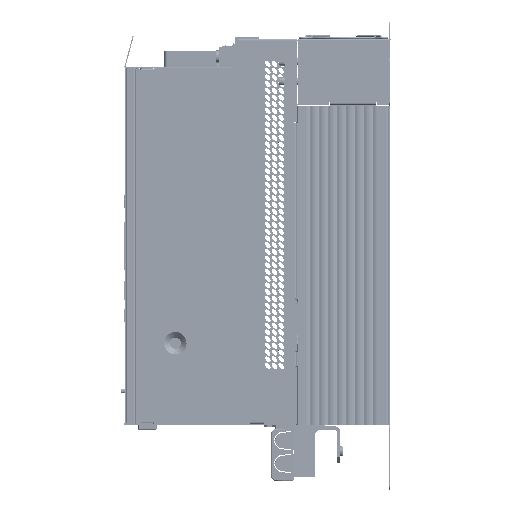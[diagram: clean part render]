
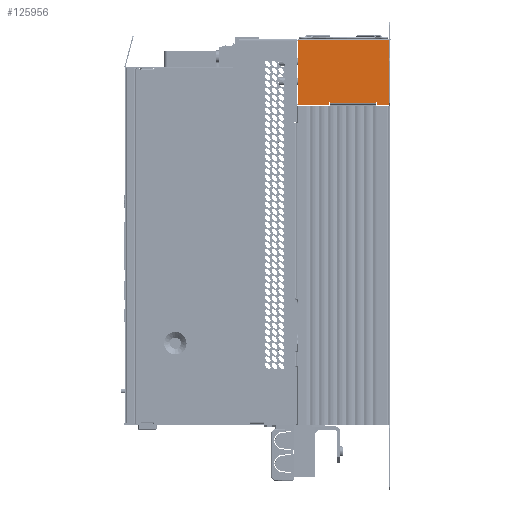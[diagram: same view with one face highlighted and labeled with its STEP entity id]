
A CAD part, left-side view. The second image highlights one B-rep face of the part: STEP entity #125956.
In plain terms, the highlighted planar face has unit normal (-1, 0, 0).
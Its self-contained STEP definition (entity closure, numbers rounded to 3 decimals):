
#12768=PLANE('',#262984);
#21863=LINE('',#324995,#39163);
#21893=LINE('',#325064,#39193);
#21894=LINE('',#325067,#39194);
#21895=LINE('',#325069,#39195);
#21896=LINE('',#325071,#39196);
#21897=LINE('',#325072,#39197);
#21898=LINE('',#325074,#39198);
#21899=LINE('',#325076,#39199);
#21900=LINE('',#325078,#39200);
#21901=LINE('',#325080,#39201);
#21902=LINE('',#325082,#39202);
#21903=LINE('',#325084,#39203);
#21904=LINE('',#325086,#39204);
#39163=VECTOR('',#279265,1.);
#39193=VECTOR('',#279325,1.);
#39194=VECTOR('',#279326,1.);
#39195=VECTOR('',#279327,1.);
#39196=VECTOR('',#279328,1.);
#39197=VECTOR('',#279329,1.);
#39198=VECTOR('',#279330,1.);
#39199=VECTOR('',#279331,1.);
#39200=VECTOR('',#279332,1.);
#39201=VECTOR('',#279333,1.);
#39202=VECTOR('',#279334,1.);
#39203=VECTOR('',#279335,1.);
#39204=VECTOR('',#279336,1.);
#125956=ADVANCED_FACE('',(#136089),#12768,.F.);
#136089=FACE_OUTER_BOUND('',#146272,.T.);
#146272=EDGE_LOOP('',(#165186,#165187,#165188,#165189,#165190,#165191,#165192,
#165193,#165194,#165195,#165196,#165197,#165198));
#165186=ORIENTED_EDGE('',*,*,#233719,.F.);
#165187=ORIENTED_EDGE('',*,*,#233720,.T.);
#165188=ORIENTED_EDGE('',*,*,#233721,.T.);
#165189=ORIENTED_EDGE('',*,*,#233722,.F.);
#165190=ORIENTED_EDGE('',*,*,#233684,.F.);
#165191=ORIENTED_EDGE('',*,*,#233723,.F.);
#165192=ORIENTED_EDGE('',*,*,#233724,.T.);
#165193=ORIENTED_EDGE('',*,*,#233725,.F.);
#165194=ORIENTED_EDGE('',*,*,#233726,.F.);
#165195=ORIENTED_EDGE('',*,*,#233727,.F.);
#165196=ORIENTED_EDGE('',*,*,#233728,.T.);
#165197=ORIENTED_EDGE('',*,*,#233729,.F.);
#165198=ORIENTED_EDGE('',*,*,#233730,.F.);
#214693=VERTEX_POINT('',#324990);
#214695=VERTEX_POINT('',#324994);
#214720=VERTEX_POINT('',#325065);
#214721=VERTEX_POINT('',#325066);
#214722=VERTEX_POINT('',#325068);
#214723=VERTEX_POINT('',#325070);
#214724=VERTEX_POINT('',#325073);
#214725=VERTEX_POINT('',#325075);
#214726=VERTEX_POINT('',#325077);
#214727=VERTEX_POINT('',#325079);
#214728=VERTEX_POINT('',#325081);
#214729=VERTEX_POINT('',#325083);
#214730=VERTEX_POINT('',#325085);
#233684=EDGE_CURVE('',#214695,#214693,#21863,.T.);
#233719=EDGE_CURVE('',#214720,#214721,#21893,.T.);
#233720=EDGE_CURVE('',#214720,#214722,#21894,.T.);
#233721=EDGE_CURVE('',#214722,#214723,#21895,.T.);
#233722=EDGE_CURVE('',#214693,#214723,#21896,.T.);
#233723=EDGE_CURVE('',#214724,#214695,#21897,.T.);
#233724=EDGE_CURVE('',#214724,#214725,#21898,.T.);
#233725=EDGE_CURVE('',#214726,#214725,#21899,.T.);
#233726=EDGE_CURVE('',#214727,#214726,#21900,.T.);
#233727=EDGE_CURVE('',#214728,#214727,#21901,.T.);
#233728=EDGE_CURVE('',#214728,#214729,#21902,.T.);
#233729=EDGE_CURVE('',#214730,#214729,#21903,.T.);
#233730=EDGE_CURVE('',#214721,#214730,#21904,.T.);
#262984=AXIS2_PLACEMENT_3D('',#325087,#279337,#279338);
#279265=DIRECTION('',(0.,-1.,0.));
#279325=DIRECTION('',(0.,0.,1.));
#279326=DIRECTION('',(0.,-1.,0.));
#279327=DIRECTION('',(0.,0.,1.));
#279328=DIRECTION('',(0.,-1.,0.));
#279329=DIRECTION('',(0.,0.,1.));
#279330=DIRECTION('',(0.,-1.,0.));
#279331=DIRECTION('',(0.,0.,-1.));
#279332=DIRECTION('',(0.,1.,0.));
#279333=DIRECTION('',(0.,0.,1.));
#279334=DIRECTION('',(0.,-1.,0.));
#279335=DIRECTION('',(0.,0.,-1.));
#279336=DIRECTION('',(0.,1.,0.));
#279337=DIRECTION('',(1.,0.,0.));
#279338=DIRECTION('',(0.,0.,-1.));
#324990=CARTESIAN_POINT('',(0.,-2.5,343.5));
#324994=CARTESIAN_POINT('',(0.,-1.,343.5));
#324995=CARTESIAN_POINT('',(0.,-1.,343.5));
#325064=CARTESIAN_POINT('',(0.,-72.,285.5));
#325065=CARTESIAN_POINT('',(0.,-72.,285.5));
#325066=CARTESIAN_POINT('',(0.,-72.,288.5));
#325067=CARTESIAN_POINT('',(0.,-1.,285.5));
#325068=CARTESIAN_POINT('',(0.,-83.,285.5));
#325069=CARTESIAN_POINT('',(0.,-83.,285.5));
#325070=CARTESIAN_POINT('',(0.,-83.,343.5));
#325071=CARTESIAN_POINT('',(0.,-1.,343.5));
#325072=CARTESIAN_POINT('',(0.,-1.,285.5));
#325073=CARTESIAN_POINT('',(0.,-1.,285.5));
#325074=CARTESIAN_POINT('',(0.,-1.,285.5));
#325075=CARTESIAN_POINT('',(0.,-29.,285.5));
#325076=CARTESIAN_POINT('',(0.,-29.,285.5));
#325077=CARTESIAN_POINT('',(0.,-29.,288.5));
#325078=CARTESIAN_POINT('',(0.,-1.,288.5));
#325079=CARTESIAN_POINT('',(0.,-30.,288.5));
#325080=CARTESIAN_POINT('',(0.,-30.,285.5));
#325081=CARTESIAN_POINT('',(0.,-30.,287.5));
#325082=CARTESIAN_POINT('',(0.,-30.,287.5));
#325083=CARTESIAN_POINT('',(0.,-71.,287.5));
#325084=CARTESIAN_POINT('',(0.,-71.,285.5));
#325085=CARTESIAN_POINT('',(0.,-71.,288.5));
#325086=CARTESIAN_POINT('',(0.,-1.,288.5));
#325087=CARTESIAN_POINT('',(0.,-1.,285.5));
